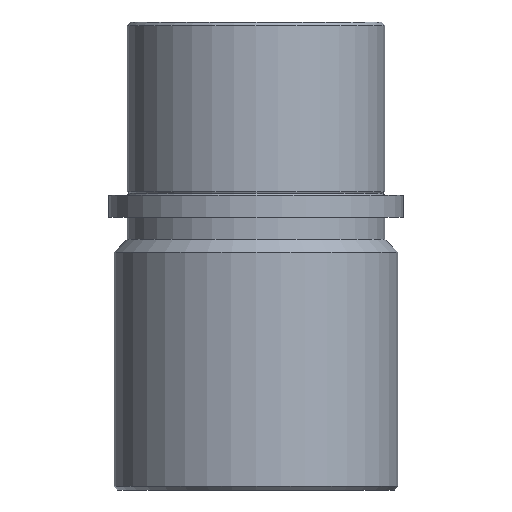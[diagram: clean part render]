
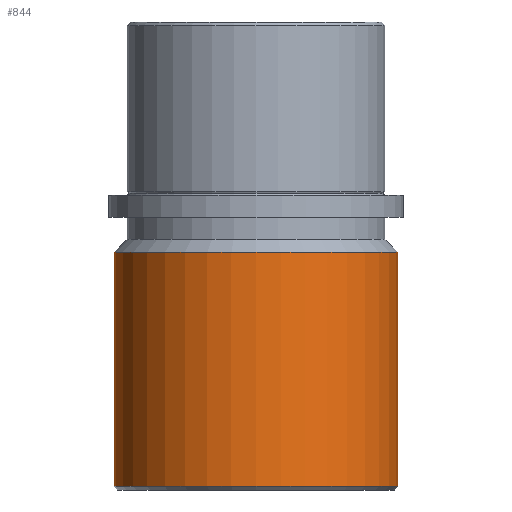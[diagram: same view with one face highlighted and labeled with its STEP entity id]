
A CAD part, front view. The second image highlights one B-rep face of the part: STEP entity #844.
In plain terms, the highlighted cylindrical face has radius 38.5 mm (diameter 77 mm), a partial arc.
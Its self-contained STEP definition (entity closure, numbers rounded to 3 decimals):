
#108 = AXIS2_PLACEMENT_3D ( 'NONE', #504, #122, #979 ) ;
#122 = DIRECTION ( 'NONE',  ( 0., 0., 1. ) ) ;
#138 = CARTESIAN_POINT ( 'NONE',  ( 38.5, 0., 0. ) ) ;
#158 = LINE ( 'NONE', #138, #1030 ) ;
#169 = CARTESIAN_POINT ( 'NONE',  ( 38.5, 0., -126. ) ) ;
#191 = CARTESIAN_POINT ( 'NONE',  ( 38.5, 0., -62.5 ) ) ;
#262 = CARTESIAN_POINT ( 'NONE',  ( -38.5, 0., 0. ) ) ;
#286 = AXIS2_PLACEMENT_3D ( 'NONE', #896, #1058, #990 ) ;
#348 = VECTOR ( 'NONE', #746, 1000. ) ;
#379 = VERTEX_POINT ( 'NONE', #406 ) ;
#406 = CARTESIAN_POINT ( 'NONE',  ( -38.5, 0., -62.5 ) ) ;
#441 = EDGE_CURVE ( 'NONE', #571, #912, #505, .T. ) ;
#481 = AXIS2_PLACEMENT_3D ( 'NONE', #525, #534, #539 ) ;
#493 = EDGE_LOOP ( 'NONE', ( #501, #774, #510, #1013 ) ) ;
#501 = ORIENTED_EDGE ( 'NONE', *, *, #721, .F. ) ;
#504 = CARTESIAN_POINT ( 'NONE',  ( 0., 0., -62.5 ) ) ;
#505 = CIRCLE ( 'NONE', #286, 38.5 ) ;
#510 = ORIENTED_EDGE ( 'NONE', *, *, #897, .T. ) ;
#525 = CARTESIAN_POINT ( 'NONE',  ( 0., 0., 0. ) ) ;
#533 = CIRCLE ( 'NONE', #108, 38.5 ) ;
#534 = DIRECTION ( 'NONE',  ( 0., 0., 1. ) ) ;
#539 = DIRECTION ( 'NONE',  ( 1., 0., 0. ) ) ;
#571 = VERTEX_POINT ( 'NONE', #726 ) ;
#577 = CYLINDRICAL_SURFACE ( 'NONE', #481, 38.5 ) ;
#601 = FACE_OUTER_BOUND ( 'NONE', #493, .T. ) ;
#721 = EDGE_CURVE ( 'NONE', #571, #379, #1032, .T. ) ;
#726 = CARTESIAN_POINT ( 'NONE',  ( -38.5, 0., -126. ) ) ;
#731 = VERTEX_POINT ( 'NONE', #191 ) ;
#746 = DIRECTION ( 'NONE',  ( 0., 0., 1. ) ) ;
#760 = EDGE_CURVE ( 'NONE', #379, #731, #533, .T. ) ;
#774 = ORIENTED_EDGE ( 'NONE', *, *, #441, .T. ) ;
#786 = DIRECTION ( 'NONE',  ( 0., 0., 1. ) ) ;
#844 = ADVANCED_FACE ( 'NONE', ( #601 ), #577, .T. ) ;
#896 = CARTESIAN_POINT ( 'NONE',  ( 0., 0., -126. ) ) ;
#897 = EDGE_CURVE ( 'NONE', #912, #731, #158, .T. ) ;
#912 = VERTEX_POINT ( 'NONE', #169 ) ;
#979 = DIRECTION ( 'NONE',  ( 1., 0., 0. ) ) ;
#990 = DIRECTION ( 'NONE',  ( 1., 0., 0. ) ) ;
#1013 = ORIENTED_EDGE ( 'NONE', *, *, #760, .F. ) ;
#1030 = VECTOR ( 'NONE', #786, 1000. ) ;
#1032 = LINE ( 'NONE', #262, #348 ) ;
#1058 = DIRECTION ( 'NONE',  ( 0., 0., 1. ) ) ;
